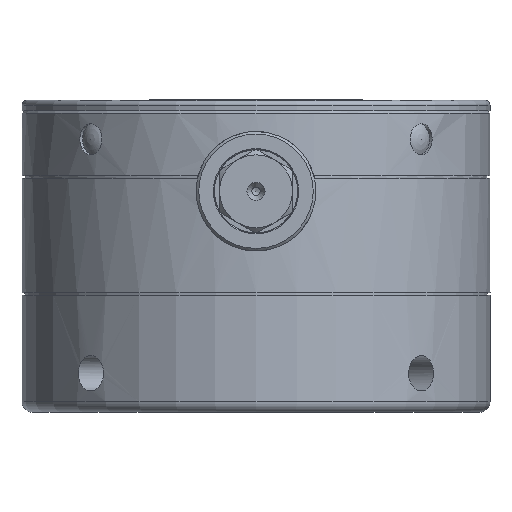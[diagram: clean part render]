
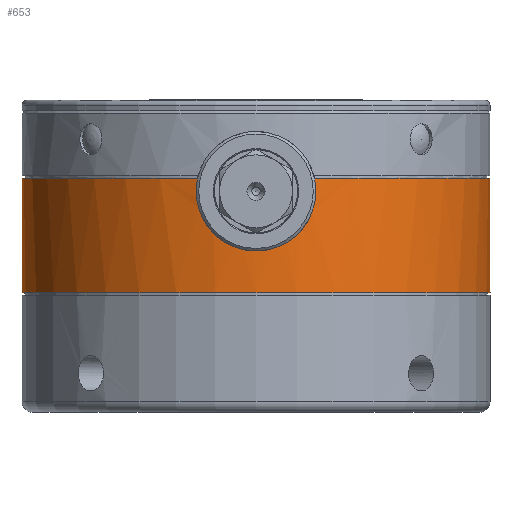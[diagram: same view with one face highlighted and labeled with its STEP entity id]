
A CAD part, left-side view. The second image highlights one B-rep face of the part: STEP entity #653.
In plain terms, the highlighted cylindrical face has radius 45 mm (diameter 90 mm), a full revolution.
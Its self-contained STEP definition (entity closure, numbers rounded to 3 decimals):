
#653 = ADVANCED_FACE( '', ( #1882, #1883 ), #1884, .T. );
#1882 = FACE_OUTER_BOUND( '', #3874, .T. );
#1883 = FACE_OUTER_BOUND( '', #3875, .T. );
#1884 = CYLINDRICAL_SURFACE( '', #3876, 45. );
#3874 = EDGE_LOOP( '', ( #6015, #6016, #6017, #6018 ) );
#3875 = EDGE_LOOP( '', ( #6019 ) );
#3876 = AXIS2_PLACEMENT_3D( '', #6020, #6021, #6022 );
#6015 = ORIENTED_EDGE( '', *, *, #11700, .F. );
#6016 = ORIENTED_EDGE( '', *, *, #11701, .F. );
#6017 = ORIENTED_EDGE( '', *, *, #11702, .F. );
#6018 = ORIENTED_EDGE( '', *, *, #11703, .F. );
#6019 = ORIENTED_EDGE( '', *, *, #11704, .T. );
#6020 = CARTESIAN_POINT( '', ( 0., 0., 54. ) );
#6021 = DIRECTION( '', ( 0., 0., 1. ) );
#6022 = DIRECTION( '', ( 1., 0., 0. ) );
#11700 = EDGE_CURVE( '', #13709, #13710, #13711, .T. );
#11701 = EDGE_CURVE( '', #13712, #13709, #13713, .T. );
#11702 = EDGE_CURVE( '', #13714, #13712, #13715, .T. );
#11703 = EDGE_CURVE( '', #13710, #13714, #13716, .T. );
#11704 = EDGE_CURVE( '', #13717, #13717, #13718, .T. );
#13709 = VERTEX_POINT( '', #16699 );
#13710 = VERTEX_POINT( '', #16700 );
#13711 = B_SPLINE_CURVE_WITH_KNOTS( '', 3, ( #16701, #16702, #16703, #16704, #16705, #16706, #16707, #16708, #16709, #16710, #16711, #16712, #16713, #16714, #16715, #16716, #16717, #16718, #16719, #16720, #16721, #16722 ), .UNSPECIFIED., .F., .F., ( 4, 2, 2, 2, 2, 2, 2, 2, 2, 2, 4 ), ( 0., 0.002, 0.003, 0.004, 0.006, 0.007, 0.008, 0.01, 0.012, 0.014, 0.016 ), .UNSPECIFIED. );
#13712 = VERTEX_POINT( '', #16723 );
#13713 = CIRCLE( '', #16724, 45. );
#13714 = VERTEX_POINT( '', #16725 );
#13715 = B_SPLINE_CURVE_WITH_KNOTS( '', 3, ( #16726, #16727, #16728, #16729, #16730, #16731, #16732, #16733, #16734, #16735, #16736, #16737, #16738, #16739, #16740, #16741, #16742, #16743, #16744, #16745, #16746, #16747, #16748, #16749, #16750, #16751 ), .UNSPECIFIED., .F., .F., ( 4, 2, 2, 2, 2, 2, 2, 2, 2, 2, 2, 2, 4 ), ( 0.025, 0.026, 0.027, 0.029, 0.03, 0.031, 0.033, 0.034, 0.035, 0.037, 0.038, 0.039, 0.041 ), .UNSPECIFIED. );
#13716 = B_SPLINE_CURVE_WITH_KNOTS( '', 3, ( #16752, #16753, #16754, #16755, #16756, #16757, #16758, #16759, #16760, #16761, #16762, #16763, #16764, #16765 ), .UNSPECIFIED., .F., .F., ( 4, 2, 2, 2, 2, 2, 4 ), ( 0.016, 0.018, 0.019, 0.021, 0.023, 0.024, 0.025 ), .UNSPECIFIED. );
#13717 = VERTEX_POINT( '', #16766 );
#13718 = CIRCLE( '', #16767, 45. );
#16699 = CARTESIAN_POINT( '', ( -43.578, 11.225, 45. ) );
#16700 = CARTESIAN_POINT( '', ( -44.8, 4.238, 31.809 ) );
#16701 = CARTESIAN_POINT( '', ( -43.578, 11.225, 45. ) );
#16702 = CARTESIAN_POINT( '', ( -43.539, 11.374, 44.331 ) );
#16703 = CARTESIAN_POINT( '', ( -43.516, 11.461, 43.659 ) );
#16704 = CARTESIAN_POINT( '', ( -43.505, 11.504, 42.645 ) );
#16705 = CARTESIAN_POINT( '', ( -43.505, 11.503, 42.306 ) );
#16706 = CARTESIAN_POINT( '', ( -43.513, 11.472, 41.627 ) );
#16707 = CARTESIAN_POINT( '', ( -43.521, 11.441, 41.285 ) );
#16708 = CARTESIAN_POINT( '', ( -43.558, 11.302, 40.27 ) );
#16709 = CARTESIAN_POINT( '', ( -43.597, 11.152, 39.61 ) );
#16710 = CARTESIAN_POINT( '', ( -43.675, 10.84, 38.647 ) );
#16711 = CARTESIAN_POINT( '', ( -43.704, 10.723, 38.33 ) );
#16712 = CARTESIAN_POINT( '', ( -43.768, 10.458, 37.704 ) );
#16713 = CARTESIAN_POINT( '', ( -43.803, 10.31, 37.395 ) );
#16714 = CARTESIAN_POINT( '', ( -43.914, 9.833, 36.499 ) );
#16715 = CARTESIAN_POINT( '', ( -43.995, 9.466, 35.935 ) );
#16716 = CARTESIAN_POINT( '', ( -44.166, 8.636, 34.876 ) );
#16717 = CARTESIAN_POINT( '', ( -44.255, 8.168, 34.377 ) );
#16718 = CARTESIAN_POINT( '', ( -44.429, 7.164, 33.479 ) );
#16719 = CARTESIAN_POINT( '', ( -44.513, 6.626, 33.077 ) );
#16720 = CARTESIAN_POINT( '', ( -44.669, 5.48, 32.367 ) );
#16721 = CARTESIAN_POINT( '', ( -44.741, 4.866, 32.058 ) );
#16722 = CARTESIAN_POINT( '', ( -44.8, 4.238, 31.809 ) );
#16723 = CARTESIAN_POINT( '', ( -43.578, -11.225, 45. ) );
#16724 = AXIS2_PLACEMENT_3D( '', #23947, #23948, #23949 );
#16725 = CARTESIAN_POINT( '', ( -44.8, -4.238, 31.809 ) );
#16726 = CARTESIAN_POINT( '', ( -44.8, -4.238, 31.809 ) );
#16727 = CARTESIAN_POINT( '', ( -44.77, -4.551, 31.934 ) );
#16728 = CARTESIAN_POINT( '', ( -44.738, -4.859, 32.071 ) );
#16729 = CARTESIAN_POINT( '', ( -44.668, -5.463, 32.375 ) );
#16730 = CARTESIAN_POINT( '', ( -44.631, -5.761, 32.541 ) );
#16731 = CARTESIAN_POINT( '', ( -44.513, -6.627, 33.077 ) );
#16732 = CARTESIAN_POINT( '', ( -44.429, -7.165, 33.48 ) );
#16733 = CARTESIAN_POINT( '', ( -44.299, -7.916, 34.151 ) );
#16734 = CARTESIAN_POINT( '', ( -44.255, -8.156, 34.386 ) );
#16735 = CARTESIAN_POINT( '', ( -44.168, -8.619, 34.879 ) );
#16736 = CARTESIAN_POINT( '', ( -44.123, -8.841, 35.138 ) );
#16737 = CARTESIAN_POINT( '', ( -43.995, -9.466, 35.936 ) );
#16738 = CARTESIAN_POINT( '', ( -43.914, -9.833, 36.498 ) );
#16739 = CARTESIAN_POINT( '', ( -43.804, -10.307, 37.389 ) );
#16740 = CARTESIAN_POINT( '', ( -43.769, -10.453, 37.694 ) );
#16741 = CARTESIAN_POINT( '', ( -43.705, -10.718, 38.319 ) );
#16742 = CARTESIAN_POINT( '', ( -43.675, -10.838, 38.64 ) );
#16743 = CARTESIAN_POINT( '', ( -43.597, -11.151, 39.608 ) );
#16744 = CARTESIAN_POINT( '', ( -43.558, -11.301, 40.266 ) );
#16745 = CARTESIAN_POINT( '', ( -43.522, -11.439, 41.271 ) );
#16746 = CARTESIAN_POINT( '', ( -43.514, -11.471, 41.609 ) );
#16747 = CARTESIAN_POINT( '', ( -43.505, -11.503, 42.293 ) );
#16748 = CARTESIAN_POINT( '', ( -43.505, -11.504, 42.636 ) );
#16749 = CARTESIAN_POINT( '', ( -43.516, -11.462, 43.657 ) );
#16750 = CARTESIAN_POINT( '', ( -43.539, -11.374, 44.331 ) );
#16751 = CARTESIAN_POINT( '', ( -43.578, -11.225, 45. ) );
#16752 = CARTESIAN_POINT( '', ( -44.8, 4.238, 31.809 ) );
#16753 = CARTESIAN_POINT( '', ( -44.863, 3.568, 31.544 ) );
#16754 = CARTESIAN_POINT( '', ( -44.914, 2.878, 31.342 ) );
#16755 = CARTESIAN_POINT( '', ( -44.965, 1.811, 31.138 ) );
#16756 = CARTESIAN_POINT( '', ( -44.978, 1.447, 31.086 ) );
#16757 = CARTESIAN_POINT( '', ( -44.996, 0.723, 31.017 ) );
#16758 = CARTESIAN_POINT( '', ( -45., 0.361, 31. ) );
#16759 = CARTESIAN_POINT( '', ( -45., -0.721, 31. ) );
#16760 = CARTESIAN_POINT( '', ( -44.983, -1.44, 31.067 ) );
#16761 = CARTESIAN_POINT( '', ( -44.931, -2.515, 31.272 ) );
#16762 = CARTESIAN_POINT( '', ( -44.91, -2.869, 31.358 ) );
#16763 = CARTESIAN_POINT( '', ( -44.86, -3.563, 31.56 ) );
#16764 = CARTESIAN_POINT( '', ( -44.832, -3.904, 31.677 ) );
#16765 = CARTESIAN_POINT( '', ( -44.8, -4.238, 31.809 ) );
#16766 = CARTESIAN_POINT( '', ( 45., 0., 23. ) );
#16767 = AXIS2_PLACEMENT_3D( '', #23950, #23951, #23952 );
#23947 = CARTESIAN_POINT( '', ( 0., 0., 45. ) );
#23948 = DIRECTION( '', ( 0., 0., 1. ) );
#23949 = DIRECTION( '', ( 1., 0., 0. ) );
#23950 = CARTESIAN_POINT( '', ( 0., 0., 23. ) );
#23951 = DIRECTION( '', ( 0., 0., 1. ) );
#23952 = DIRECTION( '', ( 1., 0., 0. ) );
